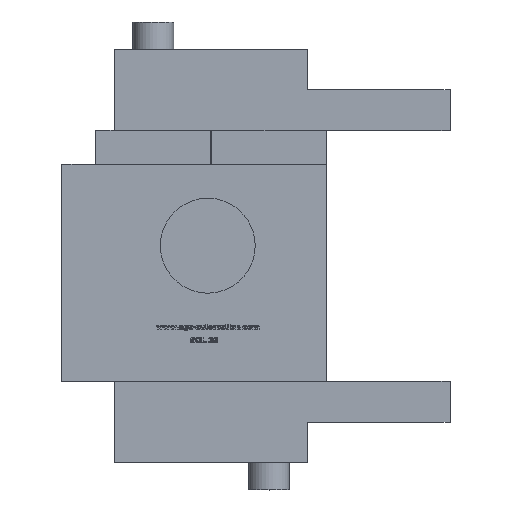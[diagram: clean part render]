
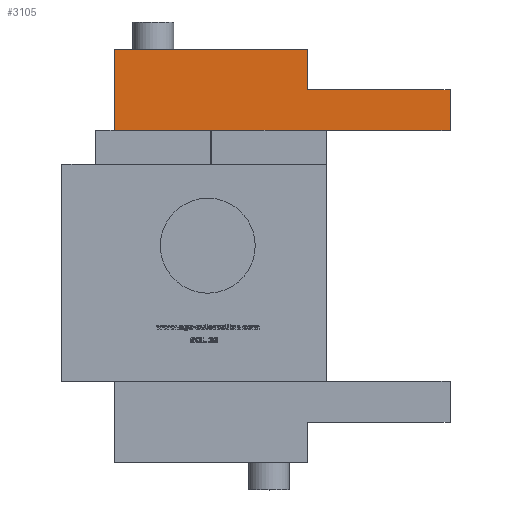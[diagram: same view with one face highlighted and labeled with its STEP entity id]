
A CAD part, top view. The second image highlights one B-rep face of the part: STEP entity #3105.
In plain terms, the highlighted planar face has unit normal (0, 0, 1) as drawn and (0, 0, -1) by its records, which use the part's own axes.
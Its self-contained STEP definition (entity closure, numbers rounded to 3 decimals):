
#2962 = VERTEX_POINT ( 'NONE', #19487 ) ;
#3008 = EDGE_CURVE ( 'NONE', #3035, #3029, #19585, .T. ) ;
#3014 = EDGE_CURVE ( 'NONE', #3029, #3015, #19630, .T. ) ;
#3015 = VERTEX_POINT ( 'NONE', #19636 ) ;
#3029 = VERTEX_POINT ( 'NONE', #19623 ) ;
#3035 = VERTEX_POINT ( 'NONE', #19624 ) ;
#3043 = EDGE_CURVE ( 'NONE', #2962, #3035, #19651, .T. ) ;
#3053 = EDGE_CURVE ( 'NONE', #3074, #3054, #19693, .T. ) ;
#3054 = VERTEX_POINT ( 'NONE', #19694 ) ;
#3071 = EDGE_CURVE ( 'NONE', #3015, #3074, #19724, .T. ) ;
#3074 = VERTEX_POINT ( 'NONE', #19727 ) ;
#3085 = ORIENTED_EDGE ( 'NONE', *, *, #3071, .F. ) ;
#3087 = ORIENTED_EDGE ( 'NONE', *, *, #3008, .F. ) ;
#3098 = EDGE_LOOP ( 'NONE', ( #3107, #3104, #3106, #3085, #3109, #3087 ) ) ;
#3104 = ORIENTED_EDGE ( 'NONE', *, *, #3111, .F. ) ;
#3105 = ADVANCED_FACE ( 'NONE', ( #19764 ), #19765, .T. ) ;
#3106 = ORIENTED_EDGE ( 'NONE', *, *, #3053, .F. ) ;
#3107 = ORIENTED_EDGE ( 'NONE', *, *, #3043, .F. ) ;
#3109 = ORIENTED_EDGE ( 'NONE', *, *, #3014, .F. ) ;
#3111 = EDGE_CURVE ( 'NONE', #3054, #2962, #19718, .T. ) ;
#18242 = DIRECTION ( 'NONE',  ( 0., 1., 0. ) ) ;
#19487 = CARTESIAN_POINT ( 'NONE',  ( 6.849, -44.695, 0. ) ) ;
#19583 = VECTOR ( 'NONE', #18242, 1000. ) ;
#19584 = CARTESIAN_POINT ( 'NONE',  ( 30.849, 12.305, 0. ) ) ;
#19585 = LINE ( 'NONE', #19584, #19583 ) ;
#19623 = CARTESIAN_POINT ( 'NONE',  ( 30.849, 12.305, 0. ) ) ;
#19624 = CARTESIAN_POINT ( 'NONE',  ( 30.849, -44.695, 0. ) ) ;
#19627 = DIRECTION ( 'NONE',  ( -1., 0., 0. ) ) ;
#19628 = VECTOR ( 'NONE', #19627, 1000. ) ;
#19629 = CARTESIAN_POINT ( 'NONE',  ( 18.849, 12.305, 0. ) ) ;
#19630 = LINE ( 'NONE', #19629, #19628 ) ;
#19636 = CARTESIAN_POINT ( 'NONE',  ( 18.849, 12.305, 0. ) ) ;
#19648 = DIRECTION ( 'NONE',  ( 1., 0., 0. ) ) ;
#19649 = VECTOR ( 'NONE', #19648, 1000. ) ;
#19650 = CARTESIAN_POINT ( 'NONE',  ( 30.849, -44.695, 0. ) ) ;
#19651 = LINE ( 'NONE', #19650, #19649 ) ;
#19690 = DIRECTION ( 'NONE',  ( -1., 0., 0. ) ) ;
#19691 = VECTOR ( 'NONE', #19690, 1000. ) ;
#19692 = CARTESIAN_POINT ( 'NONE',  ( 6.849, 54.305, 0. ) ) ;
#19693 = LINE ( 'NONE', #19692, #19691 ) ;
#19694 = CARTESIAN_POINT ( 'NONE',  ( 6.849, 54.305, 0. ) ) ;
#19717 = CARTESIAN_POINT ( 'NONE',  ( 6.849, -44.695, 0. ) ) ;
#19718 = LINE ( 'NONE', #19717, #19807 ) ;
#19721 = DIRECTION ( 'NONE',  ( 0., 1., 0. ) ) ;
#19722 = VECTOR ( 'NONE', #19721, 1000. ) ;
#19723 = CARTESIAN_POINT ( 'NONE',  ( 18.849, 54.305, 0. ) ) ;
#19724 = LINE ( 'NONE', #19723, #19722 ) ;
#19727 = CARTESIAN_POINT ( 'NONE',  ( 18.849, 54.305, 0. ) ) ;
#19751 = DIRECTION ( 'NONE',  ( -1., 0., 0. ) ) ;
#19752 = DIRECTION ( 'NONE',  ( 0., 0., -1. ) ) ;
#19753 = CARTESIAN_POINT ( 'NONE',  ( 6.849, -44.695, 0. ) ) ;
#19764 = FACE_OUTER_BOUND ( 'NONE', #3098, .T. ) ;
#19765 = PLANE ( 'NONE',  #19773 ) ;
#19773 = AXIS2_PLACEMENT_3D ( 'NONE', #19753, #19752, #19751 ) ;
#19806 = DIRECTION ( 'NONE',  ( 0., -1., 0. ) ) ;
#19807 = VECTOR ( 'NONE', #19806, 1000. ) ;
